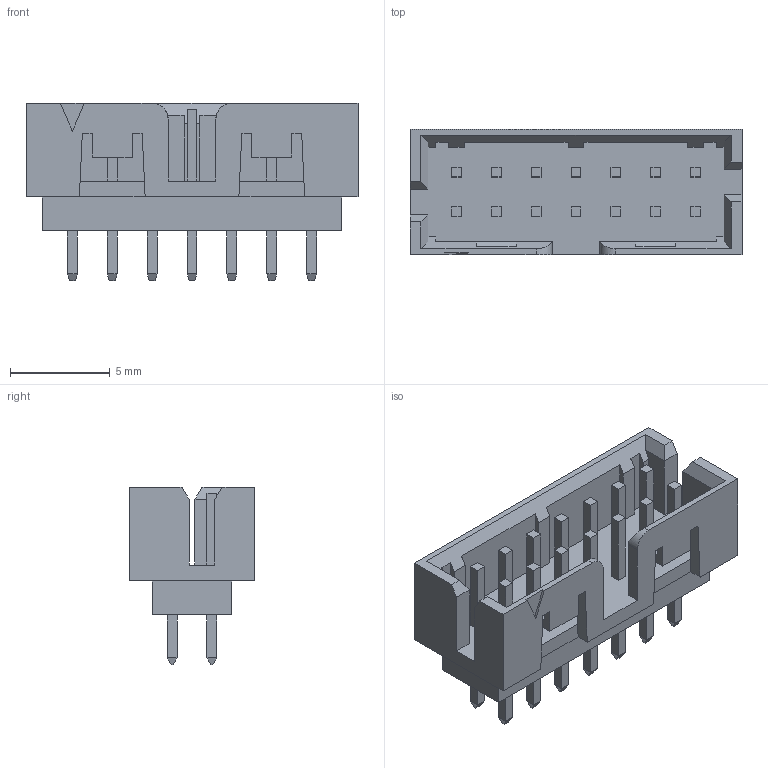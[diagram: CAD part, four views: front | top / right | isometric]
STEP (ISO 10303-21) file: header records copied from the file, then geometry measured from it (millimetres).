
FILE_DESCRIPTION(/* description */ (''),/* implementation_level */ '2;1');
FILE_NAME(/* name */ '878311419wbm000_01_214.stp',/* time_stamp */ '2022-04-11T12:43:53+05:00',/* author */ (''),/* organization */ (''),/* preprocessor_version */ 'ST-DEVELOPER v16.7',/* originating_system */ 'SIEMENS PLM Software NX 1919',/* authorisation */ '');
FILE_SCHEMA (('AUTOMOTIVE_DESIGN { 1 0 10303 214 3 1 1 1 }'));
Length unit declared in the file: millimetre
Products named in the file (1): 878311419wbm000_01
Bounding box: 16.65 x 6.3 x 8.9 mm (x, y, z)
Volume: 297.9 mm3; surface area: 774.7 mm2
Topology: 1 solids, 1 shells, 287 faces, 712 edges, 452 vertices
Faces by surface type: plane 285, cylinder 2
Entity records: 8280 total; most frequent: CARTESIAN_POINT 1452, ORIENTED_EDGE 1424, DIRECTION 1294, EDGE_CURVE 712, LINE 706, VECTOR 706, VERTEX_POINT 452, EDGE_LOOP 316
